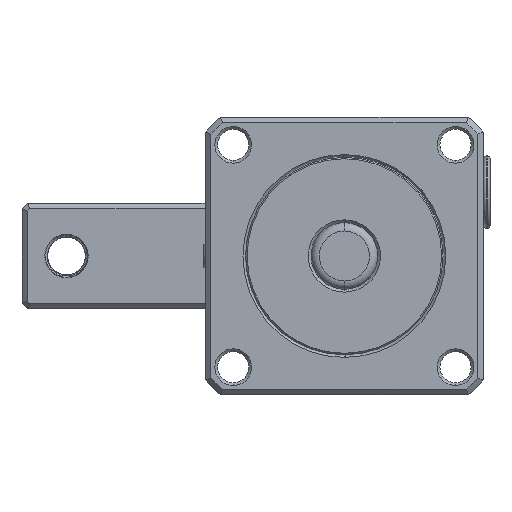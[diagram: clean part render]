
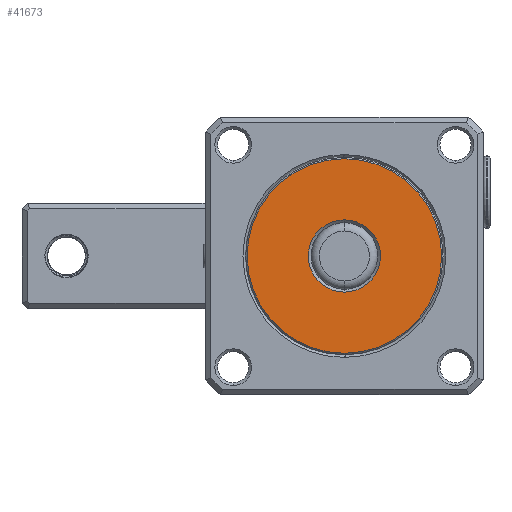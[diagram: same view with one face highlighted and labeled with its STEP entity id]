
A CAD part, front view. The second image highlights one B-rep face of the part: STEP entity #41673.
In plain terms, the highlighted planar face has unit normal (0, -1, 0).
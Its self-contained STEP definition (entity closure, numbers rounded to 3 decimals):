
#21850 = CARTESIAN_POINT ( 'NONE',  ( -13152.476, 2365.055, 6.5 ) ) ;
#21857 = DIRECTION ( 'NONE',  ( 0., 0., 1. ) ) ;
#21858 = DIRECTION ( 'NONE',  ( 0., 1., 0. ) ) ;
#21859 = CARTESIAN_POINT ( 'NONE',  ( -13152.476, 2365.055, 0. ) ) ;
#21860 = AXIS2_PLACEMENT_3D ( 'NONE', #21859, #21858, #21857 ) ;
#21872 = CIRCLE ( 'NONE', #21860, 6.5 ) ;
#21905 = CARTESIAN_POINT ( 'NONE',  ( -13152.476, 2365.055, -6.5 ) ) ;
#23245 = CARTESIAN_POINT ( 'NONE',  ( -13152.476, 2365.055, 0. ) ) ;
#23248 = AXIS2_PLACEMENT_3D ( 'NONE', #23245, #23261, #23252 ) ;
#23252 = DIRECTION ( 'NONE',  ( 0., 0., 1. ) ) ;
#23257 = CIRCLE ( 'NONE', #23248, 17.5 ) ;
#23261 = DIRECTION ( 'NONE',  ( 0., 1., 0. ) ) ;
#23283 = CARTESIAN_POINT ( 'NONE',  ( -13152.476, 2365.055, 17.5 ) ) ;
#23286 = CIRCLE ( 'NONE', #23323, 17.5 ) ;
#23320 = DIRECTION ( 'NONE',  ( 0., 0., 1. ) ) ;
#23321 = DIRECTION ( 'NONE',  ( 0., 1., 0. ) ) ;
#23322 = CARTESIAN_POINT ( 'NONE',  ( -13152.476, 2365.055, 0. ) ) ;
#23323 = AXIS2_PLACEMENT_3D ( 'NONE', #23322, #23321, #23320 ) ;
#23449 = CARTESIAN_POINT ( 'NONE',  ( -13152.476, 2365.055, -17.5 ) ) ;
#33900 = EDGE_CURVE ( 'NONE', #33928, #33930, #21872, .T. ) ;
#33928 = VERTEX_POINT ( 'NONE', #21905 ) ;
#33930 = VERTEX_POINT ( 'NONE', #21850 ) ;
#34893 = EDGE_CURVE ( 'NONE', #35009, #34917, #23257, .T. ) ;
#34917 = VERTEX_POINT ( 'NONE', #23283 ) ;
#34919 = EDGE_CURVE ( 'NONE', #34917, #35009, #23286, .T. ) ;
#35009 = VERTEX_POINT ( 'NONE', #23449 ) ;
#41598 = ORIENTED_EDGE ( 'NONE', *, *, #33900, .T. ) ;
#41673 = ADVANCED_FACE ( 'NONE', ( #47596, #47592 ), #47588, .F. ) ;
#41676 = ORIENTED_EDGE ( 'NONE', *, *, #34893, .F. ) ;
#41685 = ORIENTED_EDGE ( 'NONE', *, *, #41726, .T. ) ;
#41703 = EDGE_LOOP ( 'NONE', ( #41598, #41685 ) ) ;
#41709 = EDGE_LOOP ( 'NONE', ( #41716, #41676 ) ) ;
#41716 = ORIENTED_EDGE ( 'NONE', *, *, #34919, .F. ) ;
#41726 = EDGE_CURVE ( 'NONE', #33930, #33928, #47643, .T. ) ;
#47379 = DIRECTION ( 'NONE',  ( 0., 1., 0. ) ) ;
#47494 = CARTESIAN_POINT ( 'NONE',  ( -13140.226, 2365.055, 0. ) ) ;
#47503 = AXIS2_PLACEMENT_3D ( 'NONE', #47494, #47379, #47655 ) ;
#47588 = PLANE ( 'NONE',  #47503 ) ;
#47592 = FACE_BOUND ( 'NONE', #41703, .T. ) ;
#47596 = FACE_OUTER_BOUND ( 'NONE', #41709, .T. ) ;
#47643 = CIRCLE ( 'NONE', #47699, 6.5 ) ;
#47655 = DIRECTION ( 'NONE',  ( 0., 0., 1. ) ) ;
#47662 = DIRECTION ( 'NONE',  ( 0., 1., 0. ) ) ;
#47677 = DIRECTION ( 'NONE',  ( 0., 0., 1. ) ) ;
#47698 = CARTESIAN_POINT ( 'NONE',  ( -13152.476, 2365.055, 0. ) ) ;
#47699 = AXIS2_PLACEMENT_3D ( 'NONE', #47698, #47662, #47677 ) ;
